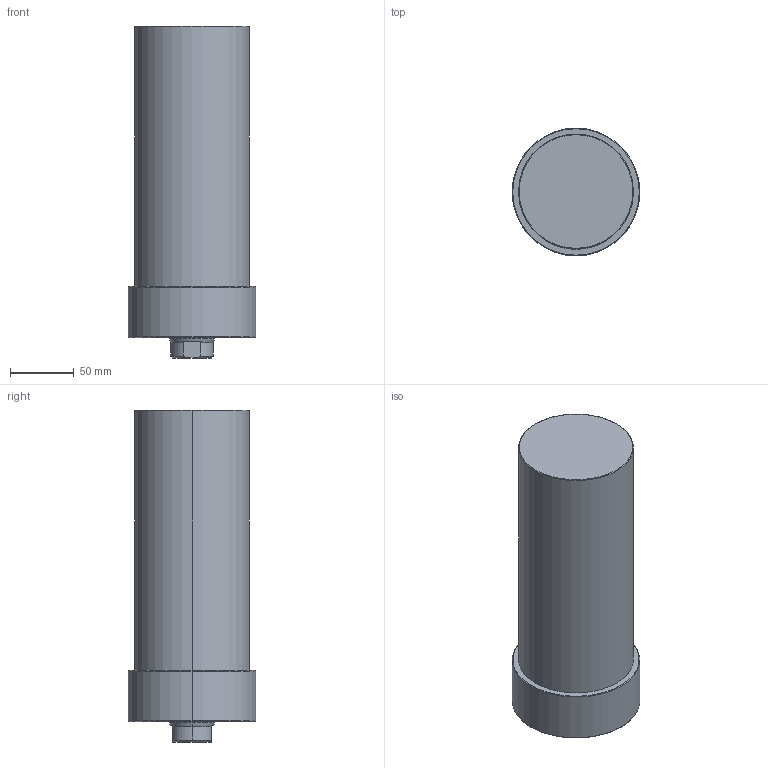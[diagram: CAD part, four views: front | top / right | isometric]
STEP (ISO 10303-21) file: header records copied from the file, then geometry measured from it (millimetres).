
FILE_DESCRIPTION (( 'STEP AP203' ), '1' );
FILE_NAME ('CLLU-090GA-150.STEP', '2020-01-13T05:38:19', ( '' ), ( '' ), 'SwSTEP 2.0', 'SolidWorks 2015', '' );
FILE_SCHEMA (( 'CONFIG_CONTROL_DESIGN' ));
Length unit declared in the file: millimetre
Products named in the file (1): CLLU-090GA-150
Bounding box: 100 x 100 x 260 mm (x, y, z)
Volume: 1605689.1 mm3; surface area: 93156.6 mm2
Topology: 1 solids, 1 shells, 64 faces, 143 edges, 80 vertices
Faces by surface type: cone 25, cylinder 23, plane 10, torus 6
Entity records: 1809 total; most frequent: DIRECTION 330, CARTESIAN_POINT 322, ORIENTED_EDGE 266, AXIS2_PLACEMENT_3D 140, EDGE_CURVE 133, VERTEX_POINT 80, CIRCLE 75, EDGE_LOOP 73
